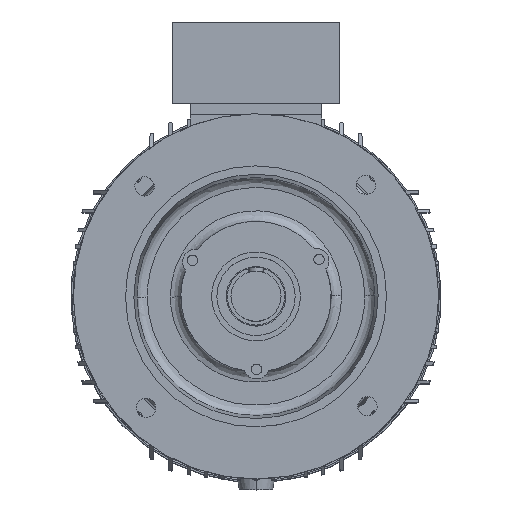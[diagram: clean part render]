
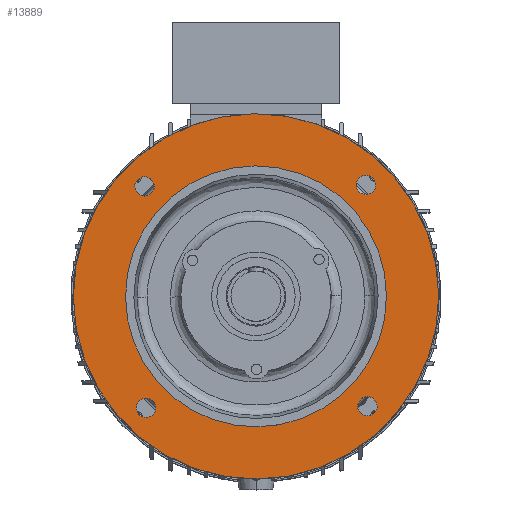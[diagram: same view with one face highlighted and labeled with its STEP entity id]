
A CAD part, top view. The second image highlights one B-rep face of the part: STEP entity #13889.
In plain terms, the highlighted planar face has unit normal (0, 0, 1) as drawn and (-1, 0, 0) by its records, which use the part's own axes.
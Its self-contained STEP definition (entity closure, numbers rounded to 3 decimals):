
#2219 = CARTESIAN_POINT ( 'NONE',  ( 5., -106.066, 106.066 ) ) ;
#2220 = DIRECTION ( 'NONE',  ( 1., 0., 0. ) ) ;
#2221 = DIRECTION ( 'NONE',  ( 0., 0., 1. ) ) ;
#2778 = CIRCLE ( 'NONE', #26886, 9.25 ) ;
#2815 = CIRCLE ( 'NONE', #26895, 9.25 ) ;
#2878 = CIRCLE ( 'NONE', #26906, 9.25 ) ;
#2888 = CIRCLE ( 'NONE', #26909, 125. ) ;
#2894 = CIRCLE ( 'NONE', #26915, 175. ) ;
#2913 = CIRCLE ( 'NONE', #26920, 9.25 ) ;
#6592 = CARTESIAN_POINT ( 'NONE',  ( 5., 106.066, 106.066 ) ) ;
#6594 = DIRECTION ( 'NONE',  ( 1., 0., 0. ) ) ;
#6596 = DIRECTION ( 'NONE',  ( 0., 0., 1. ) ) ;
#7004 = CARTESIAN_POINT ( 'NONE',  ( 5., 106.066, -106.066 ) ) ;
#7005 = DIRECTION ( 'NONE',  ( 1., 0., 0. ) ) ;
#7006 = DIRECTION ( 'NONE',  ( 0., 0., 1. ) ) ;
#7032 = CARTESIAN_POINT ( 'NONE',  ( 5., 0., 0. ) ) ;
#7033 = DIRECTION ( 'NONE',  ( 1., 0., 0. ) ) ;
#7034 = DIRECTION ( 'NONE',  ( 0., 0., 1. ) ) ;
#7248 = CARTESIAN_POINT ( 'NONE',  ( 5., 0., 0. ) ) ;
#7249 = DIRECTION ( 'NONE',  ( -1., 0., 0. ) ) ;
#7250 = DIRECTION ( 'NONE',  ( 0., 0., 1. ) ) ;
#7323 = CARTESIAN_POINT ( 'NONE',  ( 5., -106.066, -106.066 ) ) ;
#7324 = DIRECTION ( 'NONE',  ( 1., 0., 0. ) ) ;
#7325 = DIRECTION ( 'NONE',  ( 0., 0., 1. ) ) ;
#7772 = EDGE_CURVE ( 'NONE', #29261, #29243, #9502, .T. ) ;
#7774 = EDGE_CURVE ( 'NONE', #30841, #30805, #9504, .T. ) ;
#7776 = EDGE_CURVE ( 'NONE', #30808, #30715, #9513, .T. ) ;
#7778 = EDGE_CURVE ( 'NONE', #30697, #30730, #9517, .T. ) ;
#7780 = EDGE_CURVE ( 'NONE', #30653, #30654, #18849, .T. ) ;
#7782 = EDGE_CURVE ( 'NONE', #29213, #29231, #18592, .T. ) ;
#8527 = AXIS2_PLACEMENT_3D ( 'NONE', #12511, #12510, #12509 ) ;
#8529 = AXIS2_PLACEMENT_3D ( 'NONE', #12503, #12502, #12501 ) ;
#8531 = AXIS2_PLACEMENT_3D ( 'NONE', #12494, #12493, #12492 ) ;
#8533 = AXIS2_PLACEMENT_3D ( 'NONE', #12485, #12484, #12483 ) ;
#8534 = AXIS2_PLACEMENT_3D ( 'NONE', #12482, #12481, #12480 ) ;
#8536 = AXIS2_PLACEMENT_3D ( 'NONE', #12475, #12473, #12472 ) ;
#9502 = CIRCLE ( 'NONE', #8527, 9.25 ) ;
#9504 = CIRCLE ( 'NONE', #8529, 9.25 ) ;
#9513 = CIRCLE ( 'NONE', #8531, 9.25 ) ;
#9517 = CIRCLE ( 'NONE', #8533, 125. ) ;
#11263 = ORIENTED_EDGE ( 'NONE', *, *, #32697, .T. ) ;
#11275 = ORIENTED_EDGE ( 'NONE', *, *, #7782, .T. ) ;
#11293 = ORIENTED_EDGE ( 'NONE', *, *, #7778, .T. ) ;
#11301 = ORIENTED_EDGE ( 'NONE', *, *, #7772, .T. ) ;
#11302 = ORIENTED_EDGE ( 'NONE', *, *, #7780, .T. ) ;
#11303 = ORIENTED_EDGE ( 'NONE', *, *, #7776, .T. ) ;
#11304 = ORIENTED_EDGE ( 'NONE', *, *, #32655, .T. ) ;
#11305 = ORIENTED_EDGE ( 'NONE', *, *, #7774, .T. ) ;
#11306 = ORIENTED_EDGE ( 'NONE', *, *, #32716, .T. ) ;
#11308 = ORIENTED_EDGE ( 'NONE', *, *, #32708, .T. ) ;
#11309 = ORIENTED_EDGE ( 'NONE', *, *, #32701, .T. ) ;
#11316 = ORIENTED_EDGE ( 'NONE', *, *, #32671, .T. ) ;
#12472 = DIRECTION ( 'NONE',  ( 0., 0., 1. ) ) ;
#12473 = DIRECTION ( 'NONE',  ( 1., 0., 0. ) ) ;
#12475 = CARTESIAN_POINT ( 'NONE',  ( 5., 106.066, -106.066 ) ) ;
#12480 = DIRECTION ( 'NONE',  ( 0., 0., 1. ) ) ;
#12481 = DIRECTION ( 'NONE',  ( -1., 0., 0. ) ) ;
#12482 = CARTESIAN_POINT ( 'NONE',  ( 5., 0., 0. ) ) ;
#12483 = DIRECTION ( 'NONE',  ( 0., 0., 1. ) ) ;
#12484 = DIRECTION ( 'NONE',  ( 1., 0., 0. ) ) ;
#12485 = CARTESIAN_POINT ( 'NONE',  ( 5., 0., 0. ) ) ;
#12492 = DIRECTION ( 'NONE',  ( 0., 0., 1. ) ) ;
#12493 = DIRECTION ( 'NONE',  ( 1., 0., 0. ) ) ;
#12494 = CARTESIAN_POINT ( 'NONE',  ( 5., -106.066, 106.066 ) ) ;
#12501 = DIRECTION ( 'NONE',  ( 0., 0., 1. ) ) ;
#12502 = DIRECTION ( 'NONE',  ( 1., 0., 0. ) ) ;
#12503 = CARTESIAN_POINT ( 'NONE',  ( 5., -106.066, -106.066 ) ) ;
#12509 = DIRECTION ( 'NONE',  ( 0., 0., 1. ) ) ;
#12510 = DIRECTION ( 'NONE',  ( 1., 0., 0. ) ) ;
#12511 = CARTESIAN_POINT ( 'NONE',  ( 5., 106.066, 106.066 ) ) ;
#13889 = ADVANCED_FACE ( 'NONE', ( #22490, #22494, #22477, #22481, #22492, #22495 ), #24287, .T. ) ;
#18592 = CIRCLE ( 'NONE', #8536, 9.25 ) ;
#18849 = CIRCLE ( 'NONE', #8534, 175. ) ;
#22477 = FACE_BOUND ( 'NONE', #28806, .T. ) ;
#22481 = FACE_BOUND ( 'NONE', #28799, .T. ) ;
#22490 = FACE_BOUND ( 'NONE', #28783, .T. ) ;
#22492 = FACE_BOUND ( 'NONE', #28872, .T. ) ;
#22494 = FACE_OUTER_BOUND ( 'NONE', #28804, .T. ) ;
#22495 = FACE_BOUND ( 'NONE', #28808, .T. ) ;
#23385 = AXIS2_PLACEMENT_3D ( 'NONE', #24289, #24286, #24290 ) ;
#24286 = DIRECTION ( 'NONE',  ( -1., 0., 0. ) ) ;
#24287 = PLANE ( 'NONE',  #23385 ) ;
#24289 = CARTESIAN_POINT ( 'NONE',  ( 5., 116.315, 0. ) ) ;
#24290 = DIRECTION ( 'NONE',  ( 0., 0., 1. ) ) ;
#26886 = AXIS2_PLACEMENT_3D ( 'NONE', #2219, #2220, #2221 ) ;
#26895 = AXIS2_PLACEMENT_3D ( 'NONE', #6592, #6594, #6596 ) ;
#26906 = AXIS2_PLACEMENT_3D ( 'NONE', #7004, #7005, #7006 ) ;
#26909 = AXIS2_PLACEMENT_3D ( 'NONE', #7032, #7033, #7034 ) ;
#26915 = AXIS2_PLACEMENT_3D ( 'NONE', #7248, #7249, #7250 ) ;
#26920 = AXIS2_PLACEMENT_3D ( 'NONE', #7323, #7324, #7325 ) ;
#27884 = CARTESIAN_POINT ( 'NONE',  ( 5., 106.066, -115.316 ) ) ;
#27890 = CARTESIAN_POINT ( 'NONE',  ( 5., 106.066, -96.816 ) ) ;
#27905 = CARTESIAN_POINT ( 'NONE',  ( 5., 106.066, 115.316 ) ) ;
#27911 = CARTESIAN_POINT ( 'NONE',  ( 5., 106.066, 96.816 ) ) ;
#28119 = CARTESIAN_POINT ( 'NONE',  ( 5., 0., -175. ) ) ;
#28120 = CARTESIAN_POINT ( 'NONE',  ( 5., 0., 175. ) ) ;
#28163 = CARTESIAN_POINT ( 'NONE',  ( 5., 0., 125. ) ) ;
#28181 = CARTESIAN_POINT ( 'NONE',  ( 5., -106.066, 115.316 ) ) ;
#28196 = CARTESIAN_POINT ( 'NONE',  ( 5., 0., -125. ) ) ;
#28271 = CARTESIAN_POINT ( 'NONE',  ( 5., -106.066, -96.816 ) ) ;
#28274 = CARTESIAN_POINT ( 'NONE',  ( 5., -106.066, 96.816 ) ) ;
#28307 = CARTESIAN_POINT ( 'NONE',  ( 5., -106.066, -115.316 ) ) ;
#28783 = EDGE_LOOP ( 'NONE', ( #11293, #11309 ) ) ;
#28799 = EDGE_LOOP ( 'NONE', ( #11304, #11303 ) ) ;
#28804 = EDGE_LOOP ( 'NONE', ( #11308, #11302 ) ) ;
#28806 = EDGE_LOOP ( 'NONE', ( #11306, #11305 ) ) ;
#28808 = EDGE_LOOP ( 'NONE', ( #11263, #11275 ) ) ;
#28872 = EDGE_LOOP ( 'NONE', ( #11316, #11301 ) ) ;
#29213 = VERTEX_POINT ( 'NONE', #27884 ) ;
#29231 = VERTEX_POINT ( 'NONE', #27890 ) ;
#29243 = VERTEX_POINT ( 'NONE', #27905 ) ;
#29261 = VERTEX_POINT ( 'NONE', #27911 ) ;
#30653 = VERTEX_POINT ( 'NONE', #28119 ) ;
#30654 = VERTEX_POINT ( 'NONE', #28120 ) ;
#30697 = VERTEX_POINT ( 'NONE', #28163 ) ;
#30715 = VERTEX_POINT ( 'NONE', #28181 ) ;
#30730 = VERTEX_POINT ( 'NONE', #28196 ) ;
#30805 = VERTEX_POINT ( 'NONE', #28271 ) ;
#30808 = VERTEX_POINT ( 'NONE', #28274 ) ;
#30841 = VERTEX_POINT ( 'NONE', #28307 ) ;
#32655 = EDGE_CURVE ( 'NONE', #30715, #30808, #2778, .T. ) ;
#32671 = EDGE_CURVE ( 'NONE', #29243, #29261, #2815, .T. ) ;
#32697 = EDGE_CURVE ( 'NONE', #29231, #29213, #2878, .T. ) ;
#32701 = EDGE_CURVE ( 'NONE', #30730, #30697, #2888, .T. ) ;
#32708 = EDGE_CURVE ( 'NONE', #30654, #30653, #2894, .T. ) ;
#32716 = EDGE_CURVE ( 'NONE', #30805, #30841, #2913, .T. ) ;
